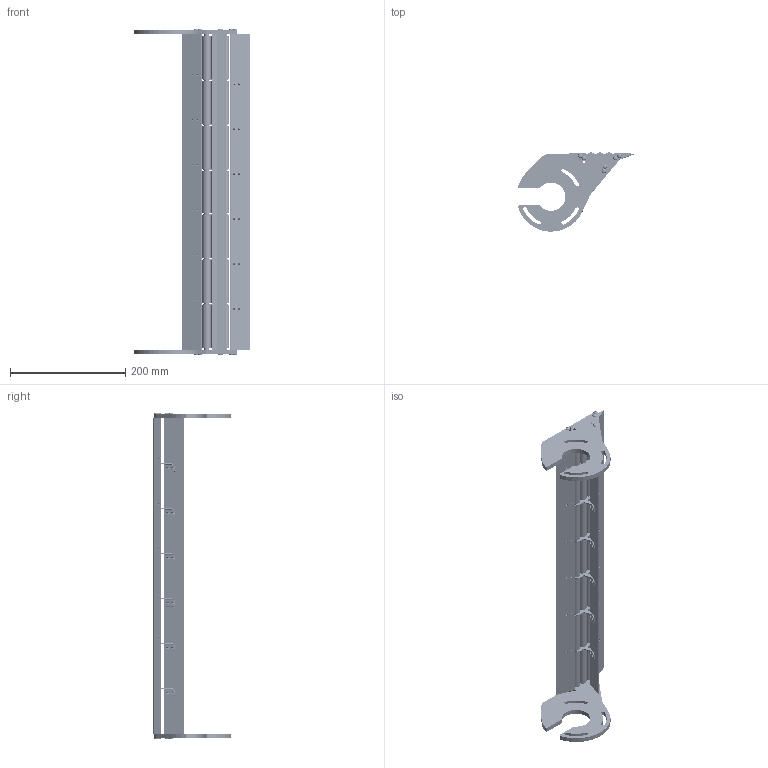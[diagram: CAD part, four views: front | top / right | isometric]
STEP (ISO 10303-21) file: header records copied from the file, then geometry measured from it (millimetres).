
FILE_DESCRIPTION (( 'STEP AP214' ), '1' );
FILE_NAME ('CAB 21 TGRI 2.STEP', '2024-02-27T08:06:42', ( '' ), ( '' ), 'SwSTEP 2.0', 'SolidWorks 2022', '' );
FILE_SCHEMA (( 'AUTOMOTIVE_DESIGN' ));
Length unit declared in the file: millimetre
Products named in the file (13): PT-F2 - CAB 21 ALU; ENTRETOISE TGRI CAB-F2-R-HEF; SA TGRI; CAB 21 TGRI 2; Galet + roulement CAB 21; ENTRETOISE SA TGRI; SA TGRI + ENTRETOISE; PSTI CAB 2 Symétrie; GR CAB 21; PSTI CAB 2; TBHC 4X16; ROULEMENT TGRI CAB FLEXTOO; AXE TGRI CAB 21
Assembly tree (60 placements, depth 3):
  CAB 21 TGRI 2
    PSTI CAB 2 Symétrie
    PSTI CAB 2
    PT-F2 - CAB 21 ALU  x3
    AXE TGRI CAB 21  x3
    ENTRETOISE TGRI CAB-F2-R-HEF  x6
    SA TGRI + ENTRETOISE  x6
      SA TGRI
      ENTRETOISE SA TGRI
    Galet + roulement CAB 21  x21
      GR CAB 21
      ROULEMENT TGRI CAB FLEXTOO
    TBHC 4X16  x12
Bounding box: 200.67 x 136.6 x 567.78 mm (x, y, z)
Volume: 873955.2 mm3; surface area: 399828.8 mm2
Topology: 113 solids, 113 shells, 4361 faces, 9695 edges, 5692 vertices
Faces by surface type: cone 1552, cylinder 1394, plane 689, torus 618, sphere 78, bspline 30
Entity records: 18345 total; most frequent: CARTESIAN_POINT 3402, DIRECTION 3288, ORIENTED_EDGE 2698, EDGE_CURVE 1349, AXIS2_PLACEMENT_3D 1342, VERTEX_POINT 817, CIRCLE 707, EDGE_LOOP 642
